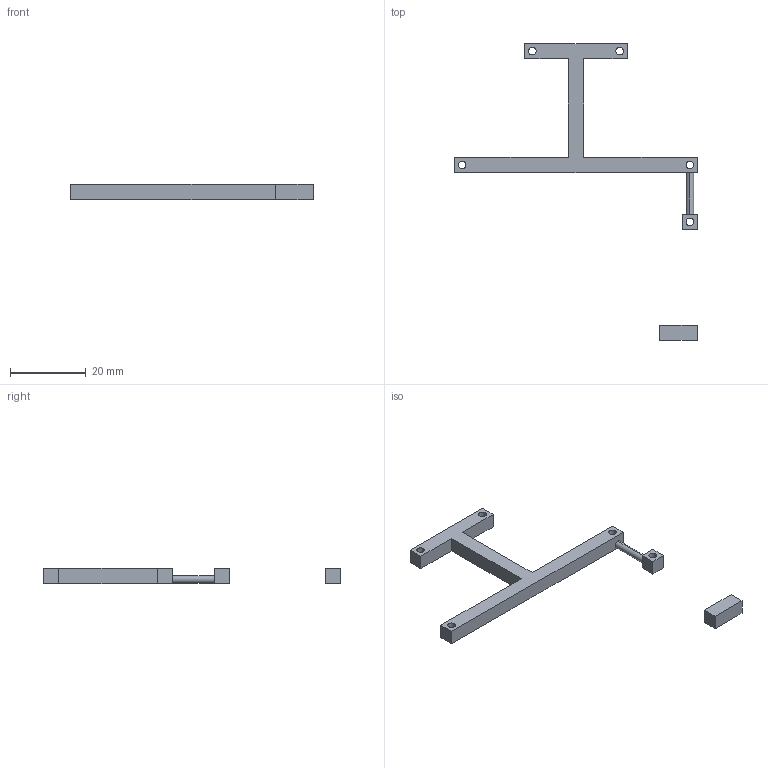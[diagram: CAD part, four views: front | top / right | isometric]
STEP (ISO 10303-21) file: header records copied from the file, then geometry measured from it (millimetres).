
FILE_DESCRIPTION (( 'STEP AP203' ), '1' );
FILE_NAME ('Fixe_Défaut_sldprt.STEP', '2025-03-05T11:19:57', ( '' ), ( '' ), 'SwSTEP 2.0', 'SolidWorks 2023', '' );
FILE_SCHEMA (( 'CONFIG_CONTROL_DESIGN' ));
Length unit declared in the file: millimetre
Products named in the file (1): Fixe_Défaut_sldprt
Bounding box: 64 x 78.26 x 4 mm (x, y, z)
Volume: 2067.7 mm3; surface area: 2355.4 mm2
Topology: 3 solids, 3 shells, 39 faces, 96 edges, 64 vertices
Faces by surface type: plane 27, cylinder 12
Entity records: 1247 total; most frequent: DIRECTION 200, CARTESIAN_POINT 200, ORIENTED_EDGE 192, EDGE_CURVE 96, VECTOR 72, LINE 72, VERTEX_POINT 64, AXIS2_PLACEMENT_3D 64
